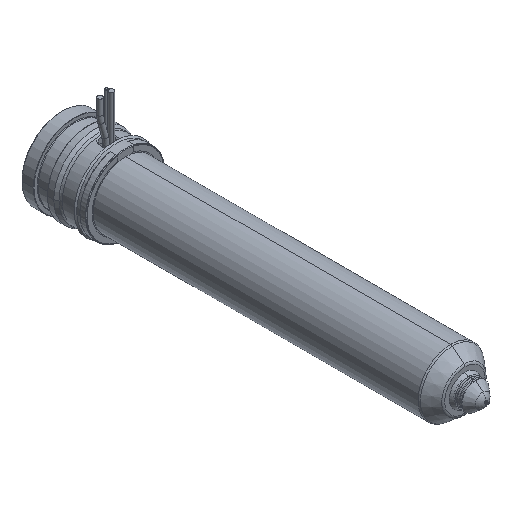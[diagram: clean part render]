
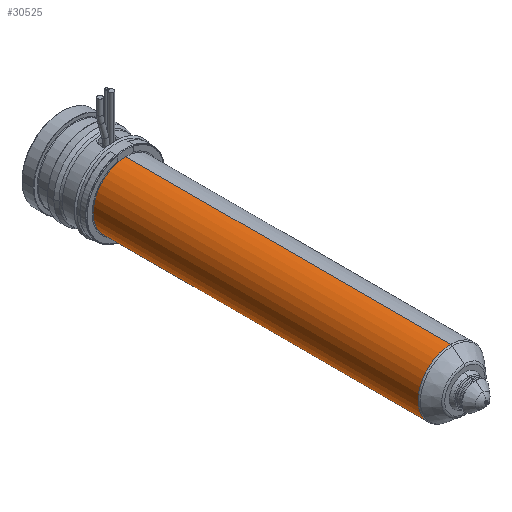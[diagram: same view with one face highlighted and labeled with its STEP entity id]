
A CAD part, isometric view. The second image highlights one B-rep face of the part: STEP entity #30525.
In plain terms, the highlighted cylindrical face has radius 12 mm (diameter 24 mm), a partial arc.
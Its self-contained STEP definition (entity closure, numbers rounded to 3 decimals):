
#29916=CARTESIAN_POINT('',(0.,-143.736,0.));
#29917=DIRECTION('',(0.,-1.,0.));
#29918=DIRECTION('',(0.,0.,1.));
#29919=AXIS2_PLACEMENT_3D('',#29916,#29917,#29918);
#29924=CARTESIAN_POINT('',(0.,-24.,0.));
#29925=DIRECTION('',(0.,1.,0.));
#29926=DIRECTION('',(0.,0.,-1.));
#29927=AXIS2_PLACEMENT_3D('',#29924,#29925,#29926);
#29932=DIRECTION('',(0.,1.,0.));
#29933=VECTOR('',#29932,119.736);
#29934=CARTESIAN_POINT('',(0.,-143.736,12.));
#29935=LINE('',#29934,#29933);
#29947=DIRECTION('',(0.,1.,0.));
#29948=VECTOR('',#29947,119.736);
#29949=CARTESIAN_POINT('',(0.,-143.736,-12.));
#29950=LINE('',#29949,#29948);
#30130=CARTESIAN_POINT('',(0.,-143.736,12.));
#30131=CARTESIAN_POINT('',(0.,-24.,12.));
#30132=VERTEX_POINT('',#30130);
#30133=VERTEX_POINT('',#30131);
#30134=CARTESIAN_POINT('',(0.,-143.736,-12.));
#30135=CARTESIAN_POINT('',(0.,-24.,-12.));
#30136=VERTEX_POINT('',#30134);
#30137=VERTEX_POINT('',#30135);
#30511=CARTESIAN_POINT('',(0.,-13.125,0.));
#30512=DIRECTION('',(0.,-1.,0.));
#30513=DIRECTION('',(0.,0.,1.));
#30514=AXIS2_PLACEMENT_3D('',#30511,#30512,#30513);
#30515=CYLINDRICAL_SURFACE('',#30514,12.);
#30517=ORIENTED_EDGE('',*,*,#30516,.F.);
#30518=ORIENTED_EDGE('',*,*,#30506,.T.);
#30520=ORIENTED_EDGE('',*,*,#30519,.T.);
#30522=ORIENTED_EDGE('',*,*,#30521,.T.);
#30523=EDGE_LOOP('',(#30517,#30518,#30520,#30522));
#30524=FACE_OUTER_BOUND('',#30523,.F.);
#30525=ADVANCED_FACE('',(#30524),#30515,.T.);
#29920=CIRCLE('',#29919,12.);
#29928=CIRCLE('',#29927,12.);
#30506=EDGE_CURVE('',#30132,#30136,#29920,.T.);
#30516=EDGE_CURVE('',#30132,#30133,#29935,.T.);
#30519=EDGE_CURVE('',#30136,#30137,#29950,.T.);
#30521=EDGE_CURVE('',#30137,#30133,#29928,.T.);
